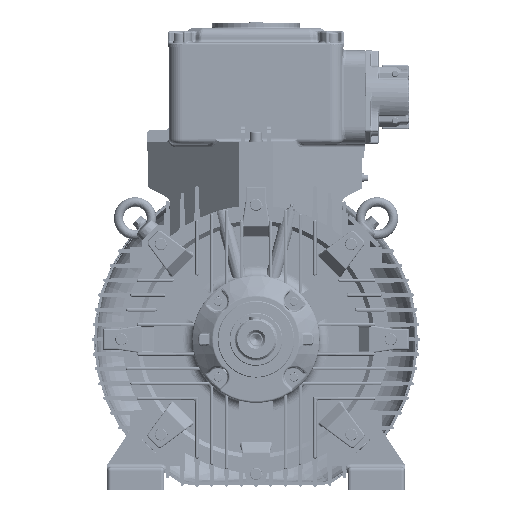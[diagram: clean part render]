
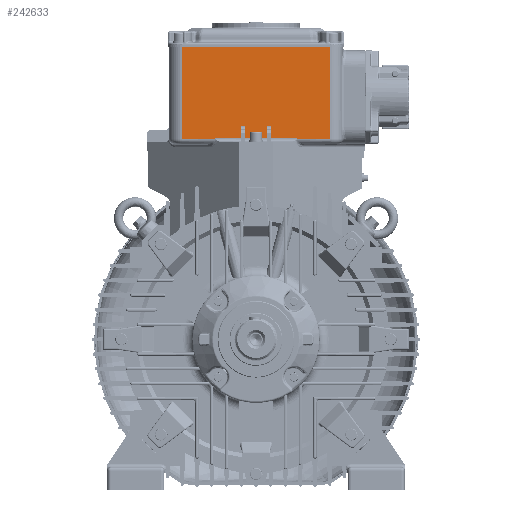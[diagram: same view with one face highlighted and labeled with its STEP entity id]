
A CAD part, left-side view. The second image highlights one B-rep face of the part: STEP entity #242633.
In plain terms, the highlighted planar face has unit normal (-1, 0, 0).
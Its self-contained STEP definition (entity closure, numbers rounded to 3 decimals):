
#15634=LINE('',#357532,#32510);
#15839=LINE('',#360775,#32715);
#15842=LINE('',#360788,#32718);
#15949=LINE('',#361600,#32825);
#15953=LINE('',#361612,#32829);
#15957=LINE('',#361621,#32833);
#15960=LINE('',#361626,#32836);
#15983=LINE('',#361687,#32859);
#15990=LINE('',#362008,#32866);
#15998=LINE('',#362287,#32874);
#16001=LINE('',#362292,#32877);
#16010=LINE('',#362326,#32886);
#16034=LINE('',#362420,#32910);
#16035=LINE('',#362422,#32911);
#16087=LINE('',#362833,#32963);
#16088=LINE('',#362834,#32964);
#32510=VECTOR('',#292111,1000.);
#32715=VECTOR('',#293072,1000.);
#32718=VECTOR('',#293083,1000.);
#32825=VECTOR('',#293590,1000.);
#32829=VECTOR('',#293600,1000.);
#32833=VECTOR('',#293608,1000.);
#32836=VECTOR('',#293613,1000.);
#32859=VECTOR('',#293682,1000.);
#32866=VECTOR('',#293725,1000.);
#32874=VECTOR('',#293777,1000.);
#32877=VECTOR('',#293782,1000.);
#32886=VECTOR('',#293823,1000.);
#32910=VECTOR('',#293947,1000.);
#32911=VECTOR('',#293950,1000.);
#32963=VECTOR('',#294132,1000.);
#32964=VECTOR('',#294133,1000.);
#40701=PLANE('',#255508);
#83323=ORIENTED_EDGE('',*,*,#115298,.T.);
#83324=ORIENTED_EDGE('',*,*,#115040,.F.);
#83325=ORIENTED_EDGE('',*,*,#115295,.T.);
#83326=ORIENTED_EDGE('',*,*,#115407,.F.);
#83327=ORIENTED_EDGE('',*,*,#115328,.F.);
#83328=ORIENTED_EDGE('',*,*,#115386,.T.);
#83329=ORIENTED_EDGE('',*,*,#115451,.F.);
#83330=ORIENTED_EDGE('',*,*,#114576,.F.);
#83331=ORIENTED_EDGE('',*,*,#115452,.T.);
#83332=ORIENTED_EDGE('',*,*,#115389,.T.);
#83333=ORIENTED_EDGE('',*,*,#115356,.F.);
#83334=ORIENTED_EDGE('',*,*,#115546,.F.);
#83335=ORIENTED_EDGE('',*,*,#115284,.F.);
#83336=ORIENTED_EDGE('',*,*,#115046,.T.);
#83337=ORIENTED_EDGE('',*,*,#115290,.F.);
#83338=ORIENTED_EDGE('',*,*,#115547,.F.);
#114576=EDGE_CURVE('',#133732,#133733,#15634,.T.);
#115040=EDGE_CURVE('',#134071,#134072,#15839,.T.);
#115046=EDGE_CURVE('',#134075,#134077,#15842,.T.);
#115284=EDGE_CURVE('',#134075,#134218,#15949,.T.);
#115290=EDGE_CURVE('',#134222,#134077,#15953,.T.);
#115295=EDGE_CURVE('',#134071,#134225,#15957,.T.);
#115298=EDGE_CURVE('',#134227,#134072,#15960,.T.);
#115328=EDGE_CURVE('',#134241,#134242,#15983,.T.);
#115356=EDGE_CURVE('',#134261,#134262,#15990,.T.);
#115386=EDGE_CURVE('',#134241,#134281,#15998,.T.);
#115389=EDGE_CURVE('',#134284,#134262,#16001,.T.);
#115407=EDGE_CURVE('',#134242,#134225,#16010,.T.);
#115451=EDGE_CURVE('',#133733,#134281,#16034,.T.);
#115452=EDGE_CURVE('',#133732,#134284,#16035,.T.);
#115546=EDGE_CURVE('',#134218,#134261,#16087,.T.);
#115547=EDGE_CURVE('',#134227,#134222,#16088,.T.);
#133732=VERTEX_POINT('',#357531);
#133733=VERTEX_POINT('',#357533);
#134071=VERTEX_POINT('',#360774);
#134072=VERTEX_POINT('',#360776);
#134075=VERTEX_POINT('',#360783);
#134077=VERTEX_POINT('',#360787);
#134218=VERTEX_POINT('',#361601);
#134222=VERTEX_POINT('',#361611);
#134225=VERTEX_POINT('',#361620);
#134227=VERTEX_POINT('',#361627);
#134241=VERTEX_POINT('',#361686);
#134242=VERTEX_POINT('',#361688);
#134261=VERTEX_POINT('',#362007);
#134262=VERTEX_POINT('',#362009);
#134281=VERTEX_POINT('',#362282);
#134284=VERTEX_POINT('',#362293);
#149480=EDGE_LOOP('',(#83323,#83324,#83325,#83326,#83327,#83328,#83329,
#83330,#83331,#83332,#83333,#83334,#83335,#83336,#83337,#83338));
#162213=FACE_BOUND('',#149480,.T.);
#242633=ADVANCED_FACE('',(#162213),#40701,.F.);
#255508=AXIS2_PLACEMENT_3D('',#362832,#294130,#294131);
#292111=DIRECTION('',(0.,-1.,0.));
#293072=DIRECTION('',(0.,1.,0.));
#293083=DIRECTION('',(0.,-1.,0.));
#293590=DIRECTION('',(0.,0.,-1.));
#293600=DIRECTION('',(0.,0.,1.));
#293608=DIRECTION('',(0.,0.,-1.));
#293613=DIRECTION('',(0.,0.,1.));
#293682=DIRECTION('',(0.,0.,1.));
#293725=DIRECTION('',(0.,0.,-1.));
#293777=DIRECTION('',(0.,-1.,0.));
#293782=DIRECTION('',(0.,-1.,0.));
#293823=DIRECTION('',(0.,1.,0.));
#293947=DIRECTION('',(0.,0.,-1.));
#293950=DIRECTION('',(0.,0.,-1.));
#294130=DIRECTION('',(1.,0.,0.));
#294131=DIRECTION('',(0.,0.,-1.));
#294132=DIRECTION('',(0.,1.,0.));
#294133=DIRECTION('',(0.,1.,0.));
#357531=CARTESIAN_POINT('',(46.,110.,435.997));
#357532=CARTESIAN_POINT('',(46.,110.,435.997));
#357533=CARTESIAN_POINT('',(46.,-110.,435.997));
#360774=CARTESIAN_POINT('',(46.,-23.,318.));
#360775=CARTESIAN_POINT('',(46.,-23.,318.));
#360776=CARTESIAN_POINT('',(46.,-17.,318.));
#360783=CARTESIAN_POINT('',(46.,23.,318.));
#360787=CARTESIAN_POINT('',(46.,17.,318.));
#360788=CARTESIAN_POINT('',(46.,110.,318.));
#361600=CARTESIAN_POINT('',(46.,23.,435.997));
#361601=CARTESIAN_POINT('',(46.,23.,300.));
#361611=CARTESIAN_POINT('',(46.,17.,300.));
#361612=CARTESIAN_POINT('',(46.,17.,435.997));
#361620=CARTESIAN_POINT('',(46.,-23.,300.));
#361621=CARTESIAN_POINT('',(46.,-23.,435.997));
#361626=CARTESIAN_POINT('',(46.,-17.,435.997));
#361627=CARTESIAN_POINT('',(46.,-17.,300.));
#361686=CARTESIAN_POINT('',(46.,-60.899,299.497));
#361687=CARTESIAN_POINT('',(46.,-60.899,299.497));
#361688=CARTESIAN_POINT('',(46.,-60.899,300.));
#362007=CARTESIAN_POINT('',(46.,60.899,300.));
#362008=CARTESIAN_POINT('',(46.,60.899,300.));
#362009=CARTESIAN_POINT('',(46.,60.899,299.497));
#362282=CARTESIAN_POINT('',(46.,-110.,299.497));
#362287=CARTESIAN_POINT('',(46.,110.,299.497));
#362292=CARTESIAN_POINT('',(46.,110.,299.497));
#362293=CARTESIAN_POINT('',(46.,110.,299.497));
#362326=CARTESIAN_POINT('',(46.,-58.828,300.));
#362420=CARTESIAN_POINT('',(46.,-110.,435.997));
#362422=CARTESIAN_POINT('',(46.,110.,435.997));
#362832=CARTESIAN_POINT('',(46.,110.,435.997));
#362833=CARTESIAN_POINT('',(46.,-58.828,300.));
#362834=CARTESIAN_POINT('',(46.,-58.828,300.));
